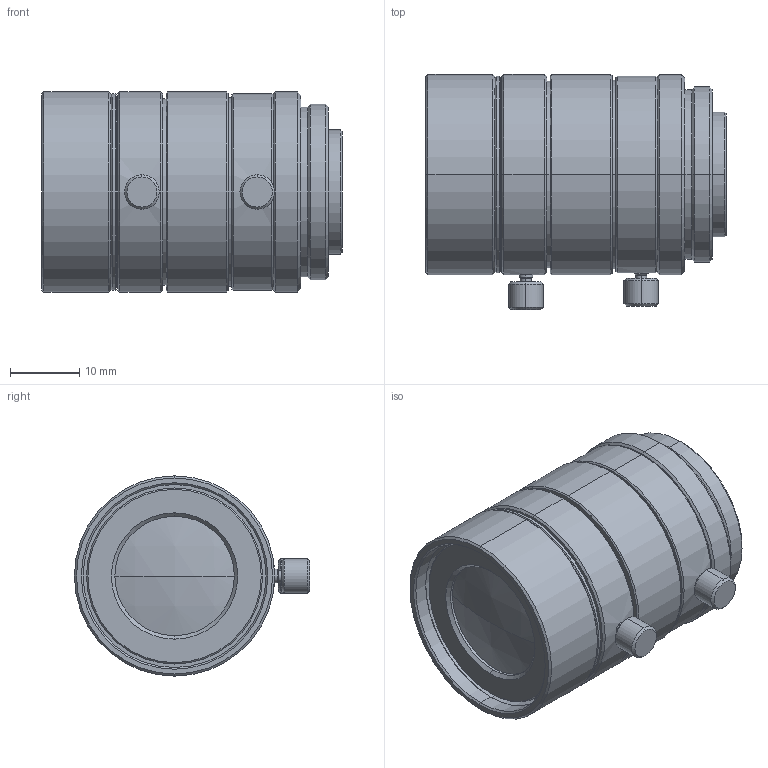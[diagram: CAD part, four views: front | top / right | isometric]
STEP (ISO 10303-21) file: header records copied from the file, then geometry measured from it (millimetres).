
FILE_DESCRIPTION (( 'STEP AP203' ), '1' );
FILE_NAME ('VS-1218VM.STEP', '2016-05-10T00:03:39', ( '' ), ( '' ), 'SwSTEP 2.0', 'SolidWorks 2016', '' );
FILE_SCHEMA (( 'CONFIG_CONTROL_DESIGN' ));
Length unit declared in the file: millimetre
Products named in the file (1): VS-1218VM
Bounding box: 43.5 x 34.05 x 29 mm (x, y, z)
Volume: 25081.2 mm3; surface area: 7293.5 mm2
Topology: 1 solids, 1 shells, 135 faces, 272 edges, 160 vertices
Faces by surface type: cone 60, cylinder 50, plane 21, sphere 4
Entity records: 3645 total; most frequent: DIRECTION 698, CARTESIAN_POINT 632, ORIENTED_EDGE 544, AXIS2_PLACEMENT_3D 294, EDGE_CURVE 272, VERTEX_POINT 160, CIRCLE 158, EDGE_LOOP 156
